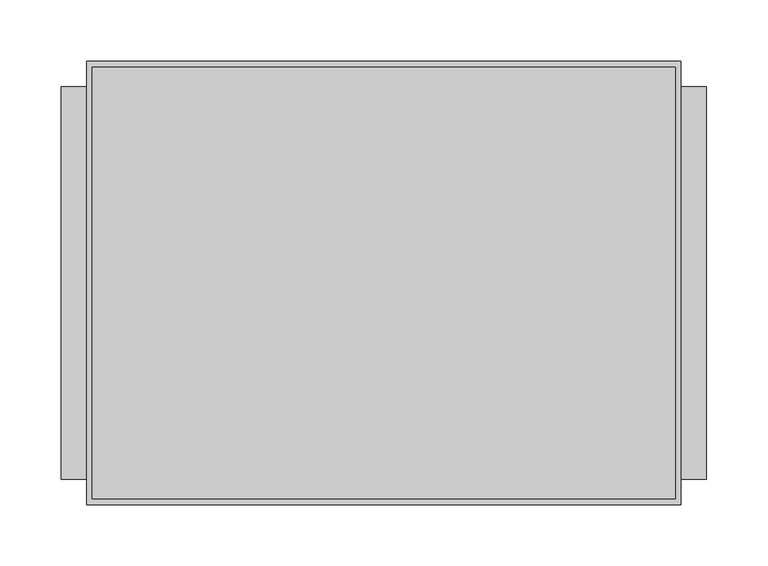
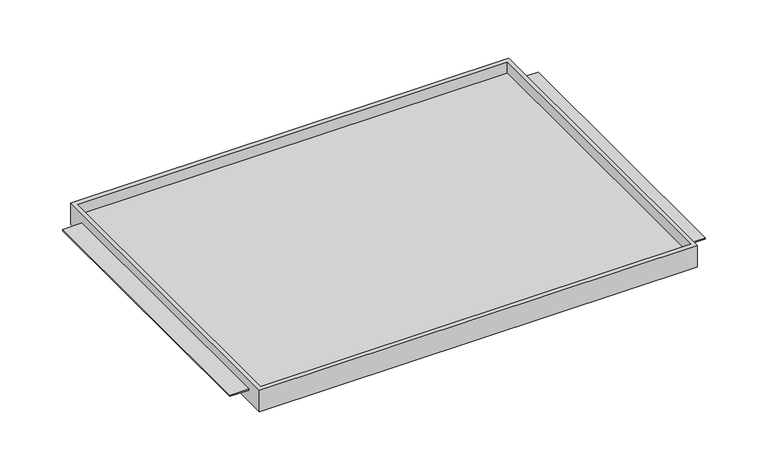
"""IFC4 building model written with IfcOpenShell, lengths in millimetres: furniture geometry."""

from ifc_helpers import new_model, si_unit, origin, place, context, project, spatial, faceted_brep, source, transform, mapped, element, save


def furniture_6e313942(model_context):
    return source(origin(), model_context, "Body", "Brep", [
        faceted_brep([(-242.7689646, -180.975, 1587.4111), (242.7689646, -180.975, 1587.4111), (242.7689646, -180.975, 1612.8111), (-242.7689646, -180.975, 1612.8111), (-242.7689646, 180.975, 1587.4111), (-242.7689646, 180.975, 1612.8111), (242.7689646, 180.975, 1612.8111), (242.7689646, 180.975, 1587.4111), (242.7689646, -160.3374879, 1601.7113), (242.7689646, 160.3374879, 1601.7113), (242.7689646, 160.3374879, 1600.1111), (242.7689646, -160.3374879, 1600.1111), (238.125, -176.2125, 1612.8111), (-238.125, -176.2125, 1612.8111), (-238.125, 175.91278, 1612.8111), (238.125, 175.91278, 1612.8111), (-242.7689646, 160.3374879, 1601.7113), (-242.7689646, -160.3374879, 1601.7113), (-242.7689646, -160.3374879, 1600.1111), (-242.7689646, 160.3374879, 1600.1111), (-238.125, -176.2125, 1600.1111), (238.125, -176.2125, 1600.1111), (238.125, 175.91278, 1600.1111), (-238.125, 175.91278, 1600.1111), (-263.525, 160.3374879, 1601.7113), (-263.525, -160.3374879, 1601.7113), (263.525, -160.3374879, 1601.7113), (263.525, 160.3374879, 1601.7113), (-263.525, -160.3374879, 1600.1111), (-263.525, 160.3374879, 1600.1111), (263.525, -160.3374879, 1600.1111), (263.525, 160.3374879, 1600.1111)], [[[0, 1, 2, 3]], [[4, 5, 6, 7]], [[1, 0, 4, 7]], [[2, 1, 7, 6], [8, 9, 10, 11]], [[3, 2, 6, 5], [12, 13, 14, 15]], [[0, 3, 5, 4], [16, 17, 18, 19]], [[20, 21, 22, 23]], [[21, 20, 13, 12]], [[22, 21, 12, 15]], [[23, 22, 15, 14]], [[20, 23, 14, 13]], [[16, 24, 25, 17]], [[26, 27, 9, 8]], [[18, 28, 29, 19]], [[30, 11, 10, 31]], [[24, 16, 19, 29]], [[25, 24, 29, 28]], [[17, 25, 28, 18]], [[27, 26, 30, 31]], [[9, 27, 31, 10]], [[26, 8, 11, 30]]]),
    ])


if __name__ == "__main__":
    model = new_model("IFC4")
    model_context = context("Model", 3, world=origin())
    ifc_project = project(units=[si_unit("LENGTHUNIT", "METRE", prefix="MILLI")], contexts=[model_context])
    site = spatial("IfcSite", under=ifc_project)
    building = spatial("IfcBuilding", under=site)
    placement = place(None, origin())
    furniture_shape = furniture_6e313942(model_context)
    element("IfcFurniture", 1, ObjectType="HermanMiller_CoStruc_CO203_CTrayShelf : 14\"D x 20\"W", at=placement, inside=building, context=model_context, shape_type="MappedRepresentation", body=[
        mapped(furniture_shape, transform((0.0, 0.0, 0.0), x_axis=(1.0, 0.0, 0.0), y_axis=(0.0, 1.0, 0.0), z_axis=(0.0, 0.0, 1.0))),
    ])
    save(model, "model.ifc")
